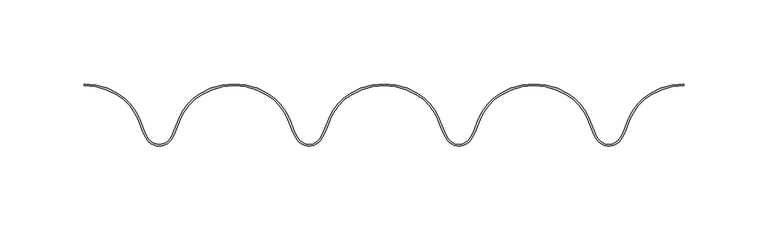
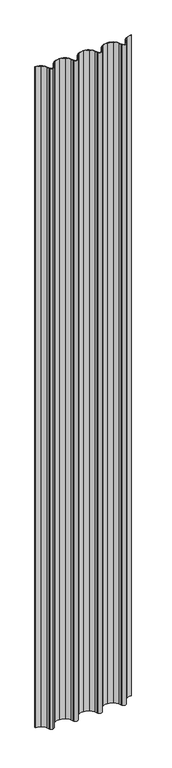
"""IFC4 building model written with IfcOpenShell, lengths in millimetres: plate geometry, Regolare Couverture 356  : Regolare Couverture 356 ."""

from ifc_helpers import new_model, si_unit, point, frame_2d, origin, origin_with_axes, place, context, project, spatial, polyline, circle_curve, trimmed, segment, composite_curve, outline, extrude, source, transform, mapped, element, save


def plate_0b4156d5(model_context):
    return source(origin(), model_context, "Body", "SweptSolid", [
        extrude(outline(composite_curve([segment(trimmed(circle_curve(frame_2d((-178.1029782, -1.5098563)), 37.4503244), [point((-158.562228, 30.4383187))], [point((-178.1029782, 35.9404682))], True, "CARTESIAN"), True, "CONTINUOUS"), segment(polyline([(-178.1029782, 35.9404682), (-178.1029782, 36.9404682)]), True, "CONTINUOUS"), segment(trimmed(circle_curve(frame_2d((-178.1029782, -1.5098563)), 38.4503244), [point((-178.1029782, 36.9404682))], [point((-158.0404502, 31.2914001))], False, "CARTESIAN"), True, "CONTINUOUS"), segment(trimmed(circle_curve(frame_2d((-174.5373329, 4.3198001)), 31.6166783), [point((-158.0404502, 31.2914001))], [point((-145.1818487, 16.0616012))], False, "CARTESIAN"), True, "CONTINUOUS"), segment(polyline([(-145.1818487, 16.0616012), (-142.312627, 8.8980757), (-140.6662733, 5.4633665)]), True, "CONTINUOUS"), segment(trimmed(circle_curve(frame_2d((-133.5772336, 8.8613445)), 7.8613445), [point((-140.6662733, 5.4633665))], [point((-133.5772336, 1.0))], True, "CARTESIAN"), True, "CONTINUOUS"), segment(trimmed(circle_curve(frame_2d((-133.5772336, 8.8613445)), 7.8613445), [point((-133.5772336, 1.0))], [point((-126.488194, 5.4633665))], True, "CARTESIAN"), True, "CONTINUOUS"), segment(polyline([(-126.488194, 5.4633665), (-124.8418403, 8.8980757), (-121.9726185, 16.0616012)]), True, "CONTINUOUS"), segment(trimmed(circle_curve(frame_2d((-92.6171343, 4.3198001)), 31.6166783), [point((-121.9726185, 16.0616012))], [point((-109.1140171, 31.2914001))], False, "CARTESIAN"), True, "CONTINUOUS"), segment(trimmed(circle_curve(frame_2d((-89.0514891, -1.5098563)), 38.4503244), [point((-109.1140171, 31.2914001))], [point((-89.0514891, 36.9404682))], False, "CARTESIAN"), True, "CONTINUOUS"), segment(trimmed(circle_curve(frame_2d((-89.0514891, -1.5098563)), 38.4503244), [point((-89.0514891, 36.9404682))], [point((-68.9889611, 31.2914001))], False, "CARTESIAN"), True, "CONTINUOUS"), segment(trimmed(circle_curve(frame_2d((-85.4858438, 4.3198001)), 31.6166783), [point((-68.9889611, 31.2914001))], [point((-56.1303596, 16.0616012))], False, "CARTESIAN"), True, "CONTINUOUS"), segment(polyline([(-56.1303596, 16.0616012), (-53.2611379, 8.8980757), (-51.6147842, 5.4633665)]), True, "CONTINUOUS"), segment(trimmed(circle_curve(frame_2d((-44.5257445, 8.8613445)), 7.8613445), [point((-51.6147842, 5.4633665))], [point((-37.4367049, 5.4633665))], True, "CARTESIAN"), True, "CONTINUOUS"), segment(polyline([(-37.4367049, 5.4633665), (-35.7903512, 8.8980757), (-32.9211295, 16.0616012)]), True, "CONTINUOUS"), segment(trimmed(circle_curve(frame_2d((-3.5656452, 4.3198001)), 31.6166783), [point((-32.9211295, 16.0616012))], [point((-20.062528, 31.2914001))], False, "CARTESIAN"), True, "CONTINUOUS"), segment(trimmed(circle_curve(frame_2d((0.0, -1.5098563)), 38.4503244), [point((-20.062528, 31.2914001))], [point((0.0, 36.9404682))], False, "CARTESIAN"), True, "CONTINUOUS"), segment(trimmed(circle_curve(frame_2d((0.0, -1.5098563)), 38.4503244), [point((0.0, 36.9404682))], [point((20.062528, 31.2914001))], False, "CARTESIAN"), True, "CONTINUOUS"), segment(trimmed(circle_curve(frame_2d((3.5656452, 4.3198001)), 31.6166783), [point((20.062528, 31.2914001))], [point((32.9211295, 16.0616012))], False, "CARTESIAN"), True, "CONTINUOUS"), segment(polyline([(32.9211295, 16.0616012), (35.7903512, 8.8980757), (37.4367049, 5.4633665)]), True, "CONTINUOUS"), segment(trimmed(circle_curve(frame_2d((44.5257445, 8.8613445)), 7.8613445), [point((37.4367049, 5.4633665))], [point((51.6147842, 5.4633665))], True, "CARTESIAN"), True, "CONTINUOUS"), segment(polyline([(51.6147842, 5.4633665), (53.2611379, 8.8980757), (56.1303596, 16.0616012)]), True, "CONTINUOUS"), segment(trimmed(circle_curve(frame_2d((85.4858438, 4.3198001)), 31.6166783), [point((56.1303596, 16.0616012))], [point((68.9889611, 31.2914001))], False, "CARTESIAN"), True, "CONTINUOUS"), segment(trimmed(circle_curve(frame_2d((89.0514891, -1.5098563)), 38.4503244), [point((68.9889611, 31.2914001))], [point((89.0514891, 36.9404682))], False, "CARTESIAN"), True, "CONTINUOUS"), segment(trimmed(circle_curve(frame_2d((89.0514891, -1.5098563)), 38.4503244), [point((89.0514891, 36.9404682))], [point((109.1140171, 31.2914001))], False, "CARTESIAN"), True, "CONTINUOUS"), segment(trimmed(circle_curve(frame_2d((92.6171343, 4.3198001)), 31.6166783), [point((109.1140171, 31.2914001))], [point((121.9726185, 16.0616012))], False, "CARTESIAN"), True, "CONTINUOUS"), segment(polyline([(121.9726185, 16.0616012), (124.8418403, 8.8980757), (126.488194, 5.4633665)]), True, "CONTINUOUS"), segment(trimmed(circle_curve(frame_2d((133.5772336, 8.8613445)), 7.8613445), [point((126.488194, 5.4633665))], [point((140.6662733, 5.4633665))], True, "CARTESIAN"), True, "CONTINUOUS"), segment(polyline([(140.6662733, 5.4633665), (142.312627, 8.8980757), (145.1818487, 16.0616012)]), True, "CONTINUOUS"), segment(trimmed(circle_curve(frame_2d((174.5373329, 4.3198001)), 31.6166783), [point((145.1818487, 16.0616012))], [point((158.0404502, 31.2914001))], False, "CARTESIAN"), True, "CONTINUOUS"), segment(trimmed(circle_curve(frame_2d((178.1029782, -1.5098563)), 38.4503244), [point((158.0404502, 31.2914001))], [point((178.1029782, 36.9404682))], False, "CARTESIAN"), True, "CONTINUOUS"), segment(polyline([(178.1029782, 36.9404682), (178.1029782, 35.9404682)]), True, "CONTINUOUS"), segment(trimmed(circle_curve(frame_2d((178.1029782, -1.5098563)), 37.4503244), [point((178.1029782, 35.9404682))], [point((158.562228, 30.4383187))], True, "CARTESIAN"), True, "CONTINUOUS"), segment(trimmed(circle_curve(frame_2d((174.5373329, 4.3198001)), 30.6166783), [point((158.562228, 30.4383187))], [point((146.1102431, 15.6900047))], True, "CARTESIAN"), True, "CONTINUOUS"), segment(polyline([(146.1102431, 15.6900047), (143.2286572, 8.4956098), (141.5680324, 5.0311277)]), True, "CONTINUOUS"), segment(trimmed(circle_curve(frame_2d((133.5772336, 8.8613445)), 8.8613445), [point((141.5680324, 5.0311277))], [point((125.5864348, 5.0311277))], False, "CARTESIAN"), True, "CONTINUOUS"), segment(polyline([(125.5864348, 5.0311277), (123.9258101, 8.4956098), (121.0442242, 15.6900047)]), True, "CONTINUOUS"), segment(trimmed(circle_curve(frame_2d((92.6171343, 4.3198001)), 30.6166783), [point((121.0442242, 15.6900047))], [point((108.5922392, 30.4383187))], True, "CARTESIAN"), True, "CONTINUOUS"), segment(trimmed(circle_curve(frame_2d((89.0514891, -1.5098563)), 37.4503244), [point((108.5922392, 30.4383187))], [point((89.0514891, 35.9404682))], True, "CARTESIAN"), True, "CONTINUOUS"), segment(trimmed(circle_curve(frame_2d((89.0514891, -1.5098563)), 37.4503244), [point((89.0514891, 35.9404682))], [point((69.5107389, 30.4383187))], True, "CARTESIAN"), True, "CONTINUOUS"), segment(trimmed(circle_curve(frame_2d((85.4858438, 4.3198001)), 30.6166783), [point((69.5107389, 30.4383187))], [point((57.058754, 15.6900047))], True, "CARTESIAN"), True, "CONTINUOUS"), segment(polyline([(57.058754, 15.6900047), (54.1771681, 8.4956098), (52.5165434, 5.0311277)]), True, "CONTINUOUS"), segment(trimmed(circle_curve(frame_2d((44.5257445, 8.8613445)), 8.8613445), [point((52.5165434, 5.0311277))], [point((36.5349457, 5.0311277))], False, "CARTESIAN"), True, "CONTINUOUS"), segment(polyline([(36.5349457, 5.0311277), (34.874321, 8.4956098), (31.9927351, 15.6900047)]), True, "CONTINUOUS"), segment(trimmed(circle_curve(frame_2d((3.5656452, 4.3198001)), 30.6166783), [point((31.9927351, 15.6900047))], [point((19.5407501, 30.4383187))], True, "CARTESIAN"), True, "CONTINUOUS"), segment(trimmed(circle_curve(frame_2d((0.0, -1.5098563)), 37.4503244), [point((19.5407501, 30.4383187))], [point((0.0, 35.9404682))], True, "CARTESIAN"), True, "CONTINUOUS"), segment(trimmed(circle_curve(frame_2d((0.0, -1.5098563)), 37.4503244), [point((0.0, 35.9404682))], [point((-19.5407501, 30.4383187))], True, "CARTESIAN"), True, "CONTINUOUS"), segment(trimmed(circle_curve(frame_2d((-3.5656452, 4.3198001)), 30.6166783), [point((-19.5407501, 30.4383187))], [point((-31.9927351, 15.6900047))], True, "CARTESIAN"), True, "CONTINUOUS"), segment(polyline([(-31.9927351, 15.6900047), (-34.874321, 8.4956098), (-36.5349457, 5.0311277)]), True, "CONTINUOUS"), segment(trimmed(circle_curve(frame_2d((-44.5257445, 8.8613445)), 8.8613445), [point((-36.5349457, 5.0311277))], [point((-52.5165434, 5.0311277))], False, "CARTESIAN"), True, "CONTINUOUS"), segment(polyline([(-52.5165434, 5.0311277), (-54.1771681, 8.4956098), (-57.058754, 15.6900047)]), True, "CONTINUOUS"), segment(trimmed(circle_curve(frame_2d((-85.4858438, 4.3198001)), 30.6166783), [point((-57.058754, 15.6900047))], [point((-69.5107389, 30.4383187))], True, "CARTESIAN"), True, "CONTINUOUS"), segment(trimmed(circle_curve(frame_2d((-89.0514891, -1.5098563)), 37.4503244), [point((-69.5107389, 30.4383187))], [point((-89.0514891, 35.9404682))], True, "CARTESIAN"), True, "CONTINUOUS"), segment(trimmed(circle_curve(frame_2d((-89.0514891, -1.5098563)), 37.4503244), [point((-89.0514891, 35.9404682))], [point((-108.5922392, 30.4383187))], True, "CARTESIAN"), True, "CONTINUOUS"), segment(trimmed(circle_curve(frame_2d((-92.6171343, 4.3198001)), 30.6166783), [point((-108.5922392, 30.4383187))], [point((-121.0442242, 15.6900047))], True, "CARTESIAN"), True, "CONTINUOUS"), segment(polyline([(-121.0442242, 15.6900047), (-123.9258101, 8.4956098), (-125.5864348, 5.0311277)]), True, "CONTINUOUS"), segment(trimmed(circle_curve(frame_2d((-133.5772336, 8.8613445)), 8.8613445), [point((-125.5864348, 5.0311277))], [point((-133.5772336, 0.0))], False, "CARTESIAN"), True, "CONTINUOUS"), segment(trimmed(circle_curve(frame_2d((-133.5772336, 8.8613445)), 8.8613445), [point((-133.5772336, 0.0))], [point((-141.5680324, 5.0311277))], False, "CARTESIAN"), True, "CONTINUOUS"), segment(polyline([(-141.5680324, 5.0311277), (-143.2286572, 8.4956098), (-146.1102431, 15.6900047)]), True, "CONTINUOUS"), segment(trimmed(circle_curve(frame_2d((-174.5373329, 4.3198001)), 30.6166783), [point((-146.1102431, 15.6900047))], [point((-158.562228, 30.4383187))], True, "CARTESIAN"), True, "CONTINUOUS")], self_intersect=False)), origin_with_axes(), (0.0, 0.0, 1.0), 2588.190451),
    ])


if __name__ == "__main__":
    model = new_model("IFC4")
    model_context = context("Model", 3, world=origin())
    ifc_project = project(units=[si_unit("LENGTHUNIT", "METRE", prefix="MILLI")], contexts=[model_context])
    site = spatial("IfcSite", under=ifc_project)
    building = spatial("IfcBuilding", under=site)
    placement = place(None, origin())
    plate_shape = plate_0b4156d5(model_context)
    element("IfcPlate", 1, ObjectType="Regolare Couverture 356  : Regolare Couverture 356 ", at=placement, inside=building, context=model_context, shape_type="MappedRepresentation", body=[
        mapped(plate_shape, transform((0.0, 0.0, 0.0), x_axis=(1.0, 0.0, 0.0), y_axis=(0.0, 1.0, 0.0), z_axis=(0.0, 0.0, 1.0))),
    ])
    save(model, "model.ifc")
